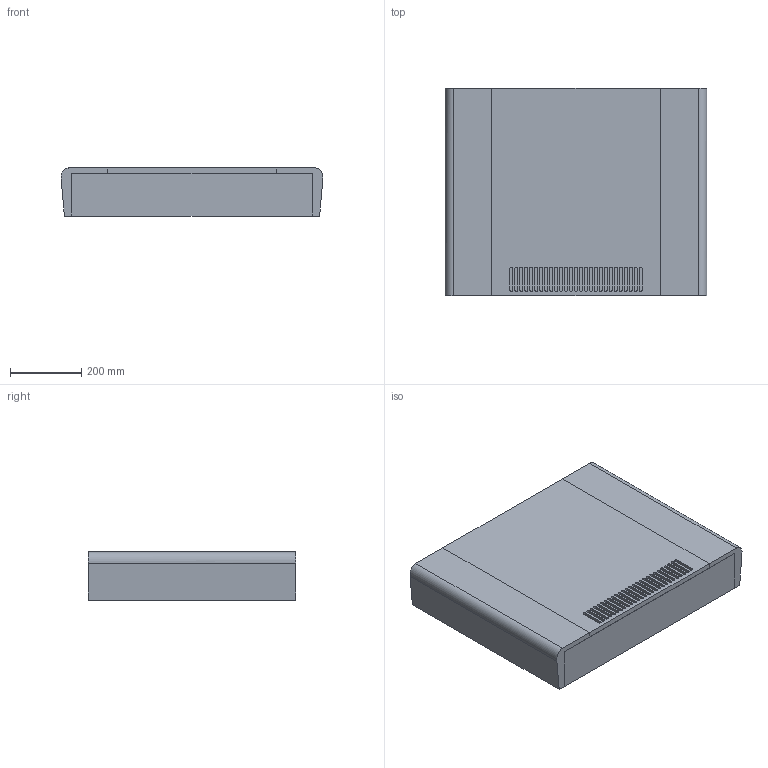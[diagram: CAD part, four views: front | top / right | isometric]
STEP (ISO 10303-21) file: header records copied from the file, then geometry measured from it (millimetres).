
FILE_DESCRIPTION (( 'STEP AP214' ), '1' );
FILE_NAME ('PFWSL_round_model01_4-pipe_v2.STEP', '2024-11-11T13:46:01', ( '' ), ( '' ), 'SwSTEP 2.0', 'SolidWorks 2023', '' );
FILE_SCHEMA (( 'AUTOMOTIVE_DESIGN' ));
Length unit declared in the file: inch
Products named in the file (1): PFWSL_round_model01_4-pipe_v2
Bounding box: 734.97 x 582.61 x 134.94 mm (x, y, z)
Volume: 36669629.4 mm3; surface area: 2367743.2 mm2
Topology: 25 solids, 25 shells, 436 faces, 1096 edges, 728 vertices
Faces by surface type: plane 276, cylinder 150, torus 8, bspline 2
Entity records: 13583 total; most frequent: CARTESIAN_POINT 2287, DIRECTION 2278, ORIENTED_EDGE 2192, EDGE_CURVE 1096, VECTOR 776, LINE 776, AXIS2_PLACEMENT_3D 751, VERTEX_POINT 728
